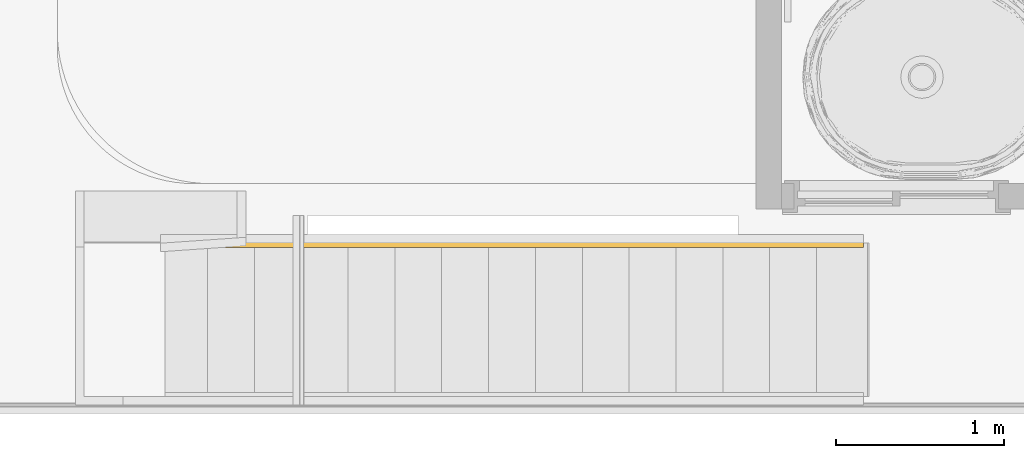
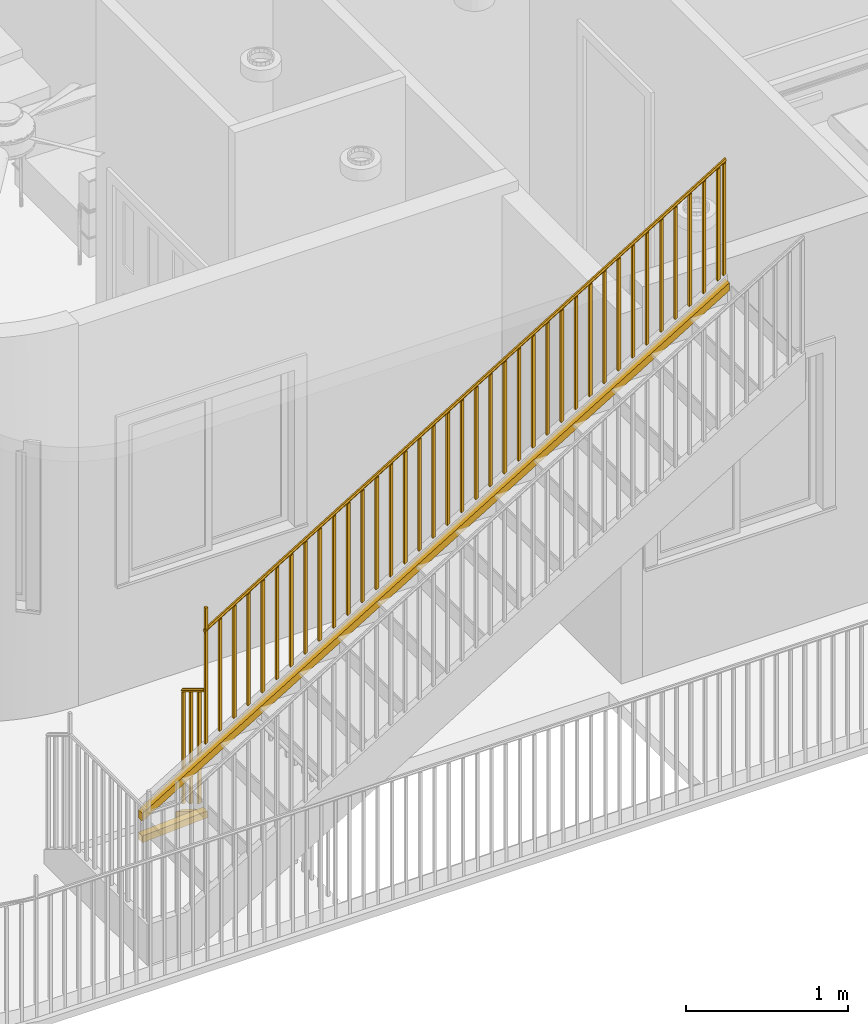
# One storey, part 11 of 28: 1 railing, 1 element without a shape of its own.
"""IFC2X3 building model written with IfcOpenShell, lengths in feet."""

from ifc_helpers import new_model, entity, si_unit, converted_unit, derived_unit, direction, frame, origin, place, context, subcontext, project, spatial, faceted_brep, element, aggregate, save


model = new_model("IFC2X3")

# Units and contexts
model_context = context("Model", 3, precision=0.0001, world=origin(), true_north=direction((6.12303176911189e-17, 1.0)))
body_context = subcontext(model_context, "Body", "Model", "MODEL_VIEW")
ifc_project = project(units=[converted_unit("LENGTHUNIT", "FOOT", entity("IfcRatioMeasure", 0.3048), si_unit("LENGTHUNIT", "METRE"), dimensions=[1, 0, 0, 0, 0, 0, 0]), converted_unit("AREAUNIT", "SQUARE FOOT", entity("IfcRatioMeasure", 0.09290304), si_unit("AREAUNIT", "SQUARE_METRE"), dimensions=[2, 0, 0, 0, 0, 0, 0]), converted_unit("VOLUMEUNIT", "CUBIC FOOT", entity("IfcRatioMeasure", 0.028316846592), si_unit("VOLUMEUNIT", "CUBIC_METRE"), dimensions=[3, 0, 0, 0, 0, 0, 0]), converted_unit("PLANEANGLEUNIT", "DEGREE", entity("IfcRatioMeasure", 0.0174532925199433), si_unit("PLANEANGLEUNIT", "RADIAN"), dimensions=[0, 0, 0, 0, 0, 0, 0]), si_unit("MASSUNIT", "GRAM", prefix="KILO"), derived_unit("MASSDENSITYUNIT", [(si_unit("MASSUNIT", "GRAM", prefix="KILO"), 1), (si_unit("LENGTHUNIT", "METRE"), -3)]), si_unit("TIMEUNIT", "SECOND"), si_unit("FREQUENCYUNIT", "HERTZ"), si_unit("THERMODYNAMICTEMPERATUREUNIT", "DEGREE_CELSIUS"), derived_unit("THERMALTRANSMITTANCEUNIT", [(si_unit("MASSUNIT", "GRAM", prefix="KILO"), 1), (si_unit("THERMODYNAMICTEMPERATUREUNIT", "KELVIN"), -1), (si_unit("TIMEUNIT", "SECOND"), -3)]), derived_unit("VOLUMETRICFLOWRATEUNIT", [(si_unit("LENGTHUNIT", "METRE"), 3), (si_unit("TIMEUNIT", "SECOND"), -1)]), si_unit("ELECTRICCURRENTUNIT", "AMPERE"), si_unit("ELECTRICVOLTAGEUNIT", "VOLT"), si_unit("POWERUNIT", "WATT"), si_unit("FORCEUNIT", "NEWTON"), si_unit("ILLUMINANCEUNIT", "LUX"), si_unit("LUMINOUSFLUXUNIT", "LUMEN"), si_unit("LUMINOUSINTENSITYUNIT", "CANDELA"), derived_unit("USERDEFINED", [(si_unit("MASSUNIT", "GRAM", prefix="KILO"), -1), (si_unit("LENGTHUNIT", "METRE"), -2), (si_unit("TIMEUNIT", "SECOND"), 3), (si_unit("LUMINOUSFLUXUNIT", "LUMEN"), 1)]), derived_unit("LINEARVELOCITYUNIT", [(si_unit("LENGTHUNIT", "METRE"), 1), (si_unit("TIMEUNIT", "SECOND"), -1)]), si_unit("PRESSUREUNIT", "PASCAL"), derived_unit("USERDEFINED", [(si_unit("LENGTHUNIT", "METRE"), -2), (si_unit("MASSUNIT", "GRAM", prefix="KILO"), 1), (si_unit("TIMEUNIT", "SECOND"), -2)])], contexts=[model_context])

# Site, building, storey
site_placement = place(None, origin())
site = spatial("IfcSite", under=ifc_project, at=site_placement, Name="表面", CompositionType="ELEMENT")
building_placement = place(site_placement, origin())
building = spatial("IfcBuilding", under=site, at=building_placement, CompositionType="ELEMENT")
storey_placement = place(building_placement, frame((0.0, 0.0, 10.0)))
storey = spatial("IfcBuildingStorey", under=building, at=storey_placement, Name="Level 2", CompositionType="ELEMENT", Elevation=9.99999999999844)

# Stair, railing
stair_placement = place(storey_placement, origin())
stair = element("IfcStair", 1, at=stair_placement, inside=storey, Name="楼梯:7\" max riser 11\" tread", ObjectType="楼梯:7\" max riser 11\" tread", ShapeType="NOTDEFINED")
railing_placement = place(stair_placement, frame((-31.7640797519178, -14.1511403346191, 0.360668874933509)))
railing = element("IfcRailing", 2, at=railing_placement, Name="栏杆扶手:Handrail - Rectangular", ObjectType="栏杆扶手:Handrail - Rectangular", PredefinedType="NOTDEFINED", context=body_context, shape_type="Brep", body=[
    faceted_brep([(13.5520833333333, 0.198117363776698, 12.4219382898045), (13.5520833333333, 0.198117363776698, 9.65973982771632), (13.5520833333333, 0.135617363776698, 9.65973982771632), (13.5520833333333, 0.135617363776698, 12.4219382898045), (13.6145833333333, 0.198117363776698, 12.4598170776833), (13.6145833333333, 0.198117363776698, 9.6976186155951), (13.6145833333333, 0.135617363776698, 12.4598170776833), (13.6145833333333, 0.135617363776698, 9.6976186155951)], [[[0, 1, 2, 3]], [[4, 5, 1, 0]], [[6, 7, 5, 4]], [[3, 2, 7, 6]], [[3, 6, 4, 0]], [[1, 5, 7, 2]]]),
    faceted_brep([(13.21875, 0.198117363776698, 12.2199180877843), (13.21875, 0.198117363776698, 9.45771962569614), (13.21875, 0.135617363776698, 9.45771962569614), (13.21875, 0.135617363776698, 12.2199180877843), (13.28125, 0.198117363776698, 12.2577968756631), (13.28125, 0.198117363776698, 9.49559841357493), (13.28125, 0.135617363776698, 12.2577968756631), (13.28125, 0.135617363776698, 9.49559841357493)], [[[0, 1, 2, 3]], [[4, 5, 1, 0]], [[6, 7, 5, 4]], [[3, 2, 7, 6]], [[3, 6, 4, 0]], [[1, 5, 7, 2]]]),
    faceted_brep([(12.8854166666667, 0.198117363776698, 12.0178978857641), (12.8854166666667, 0.198117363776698, 9.25569942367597), (12.8854166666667, 0.135617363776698, 9.25569942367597), (12.8854166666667, 0.135617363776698, 12.0178978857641), (12.9479166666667, 0.198117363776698, 12.0557766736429), (12.9479166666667, 0.198117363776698, 9.29357821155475), (12.9479166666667, 0.135617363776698, 12.0557766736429), (12.9479166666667, 0.135617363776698, 9.29357821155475)], [[[0, 1, 2, 3]], [[4, 5, 1, 0]], [[6, 7, 5, 4]], [[3, 2, 7, 6]], [[3, 6, 4, 0]], [[1, 5, 7, 2]]]),
    faceted_brep([(12.5520833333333, 0.198117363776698, 11.815877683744), (12.5520833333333, 0.198117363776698, 9.0536792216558), (12.5520833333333, 0.135617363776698, 9.0536792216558), (12.5520833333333, 0.135617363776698, 11.815877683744), (12.6145833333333, 0.198117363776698, 11.8537564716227), (12.6145833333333, 0.198117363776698, 9.09155800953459), (12.6145833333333, 0.135617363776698, 11.8537564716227), (12.6145833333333, 0.135617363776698, 9.09155800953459)], [[[0, 1, 2, 3]], [[4, 5, 1, 0]], [[6, 7, 5, 4]], [[3, 2, 7, 6]], [[3, 6, 4, 0]], [[1, 5, 7, 2]]]),
    faceted_brep([(12.21875, 0.198117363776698, 11.6138574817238), (12.21875, 0.198117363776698, 8.85165901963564), (12.21875, 0.135617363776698, 8.85165901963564), (12.21875, 0.135617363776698, 11.6138574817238), (12.28125, 0.198117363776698, 11.6517362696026), (12.28125, 0.198117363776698, 8.88953780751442), (12.28125, 0.135617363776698, 11.6517362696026), (12.28125, 0.135617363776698, 8.88953780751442)], [[[0, 1, 2, 3]], [[4, 5, 1, 0]], [[6, 7, 5, 4]], [[3, 2, 7, 6]], [[3, 6, 4, 0]], [[1, 5, 7, 2]]]),
    faceted_brep([(11.8854166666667, 0.198117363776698, 11.4118372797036), (11.8854166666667, 0.198117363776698, 8.64963881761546), (11.8854166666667, 0.135617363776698, 8.64963881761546), (11.8854166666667, 0.135617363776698, 11.4118372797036), (11.9479166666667, 0.198117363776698, 11.4497160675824), (11.9479166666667, 0.198117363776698, 8.68751760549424), (11.9479166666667, 0.135617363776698, 11.4497160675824), (11.9479166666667, 0.135617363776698, 8.68751760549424)], [[[0, 1, 2, 3]], [[4, 5, 1, 0]], [[6, 7, 5, 4]], [[3, 2, 7, 6]], [[3, 6, 4, 0]], [[1, 5, 7, 2]]]),
    faceted_brep([(11.5520833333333, 0.198117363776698, 11.2098170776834), (11.5520833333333, 0.198117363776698, 8.44761861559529), (11.5520833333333, 0.135617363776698, 8.44761861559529), (11.5520833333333, 0.135617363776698, 11.2098170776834), (11.6145833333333, 0.198117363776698, 11.2476958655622), (11.6145833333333, 0.198117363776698, 8.48549740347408), (11.6145833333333, 0.135617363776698, 11.2476958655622), (11.6145833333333, 0.135617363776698, 8.48549740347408)], [[[0, 1, 2, 3]], [[4, 5, 1, 0]], [[6, 7, 5, 4]], [[3, 2, 7, 6]], [[3, 6, 4, 0]], [[1, 5, 7, 2]]]),
    faceted_brep([(11.21875, 0.198117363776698, 11.0077968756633), (11.21875, 0.198117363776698, 8.24559841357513), (11.21875, 0.135617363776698, 8.24559841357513), (11.21875, 0.135617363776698, 11.0077968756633), (11.28125, 0.198117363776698, 11.0456756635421), (11.28125, 0.198117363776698, 8.28347720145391), (11.28125, 0.135617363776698, 11.0456756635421), (11.28125, 0.135617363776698, 8.28347720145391)], [[[0, 1, 2, 3]], [[4, 5, 1, 0]], [[6, 7, 5, 4]], [[3, 2, 7, 6]], [[3, 6, 4, 0]], [[1, 5, 7, 2]]]),
    faceted_brep([(10.8854166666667, 0.198117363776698, 10.8057766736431), (10.8854166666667, 0.198117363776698, 8.04357821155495), (10.8854166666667, 0.135617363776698, 8.04357821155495), (10.8854166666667, 0.135617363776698, 10.8057766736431), (10.9479166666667, 0.198117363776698, 10.8436554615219), (10.9479166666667, 0.198117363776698, 8.08145699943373), (10.9479166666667, 0.135617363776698, 10.8436554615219), (10.9479166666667, 0.135617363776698, 8.08145699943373)], [[[0, 1, 2, 3]], [[4, 5, 1, 0]], [[6, 7, 5, 4]], [[3, 2, 7, 6]], [[3, 6, 4, 0]], [[1, 5, 7, 2]]]),
    faceted_brep([(10.5520833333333, 0.198117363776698, 10.6037564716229), (10.5520833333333, 0.198117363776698, 7.84155800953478), (10.5520833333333, 0.135617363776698, 7.84155800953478), (10.5520833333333, 0.135617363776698, 10.6037564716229), (10.6145833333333, 0.198117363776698, 10.6416352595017), (10.6145833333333, 0.198117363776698, 7.87943679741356), (10.6145833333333, 0.135617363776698, 10.6416352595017), (10.6145833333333, 0.135617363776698, 7.87943679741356)], [[[0, 1, 2, 3]], [[4, 5, 1, 0]], [[6, 7, 5, 4]], [[3, 2, 7, 6]], [[3, 6, 4, 0]], [[1, 5, 7, 2]]]),
    faceted_brep([(10.21875, 0.198117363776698, 10.4017362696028), (10.21875, 0.198117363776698, 7.63953780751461), (10.21875, 0.135617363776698, 7.63953780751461), (10.21875, 0.135617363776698, 10.4017362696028), (10.28125, 0.198117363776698, 10.4396150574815), (10.28125, 0.198117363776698, 7.67741659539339), (10.28125, 0.135617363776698, 10.4396150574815), (10.28125, 0.135617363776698, 7.67741659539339)], [[[0, 1, 2, 3]], [[4, 5, 1, 0]], [[6, 7, 5, 4]], [[3, 2, 7, 6]], [[3, 6, 4, 0]], [[1, 5, 7, 2]]]),
    faceted_brep([(9.88541666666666, 0.198117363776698, 10.1997160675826), (9.88541666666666, 0.198117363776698, 7.43751760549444), (9.88541666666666, 0.135617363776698, 7.43751760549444), (9.88541666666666, 0.135617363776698, 10.1997160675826), (9.94791666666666, 0.198117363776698, 10.2375948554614), (9.94791666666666, 0.198117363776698, 7.47539639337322), (9.94791666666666, 0.135617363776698, 10.2375948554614), (9.94791666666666, 0.135617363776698, 7.47539639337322)], [[[0, 1, 2, 3]], [[4, 5, 1, 0]], [[6, 7, 5, 4]], [[3, 2, 7, 6]], [[3, 6, 4, 0]], [[1, 5, 7, 2]]]),
    faceted_brep([(9.55208333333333, 0.198117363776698, 9.99769586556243), (9.55208333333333, 0.198117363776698, 7.23549740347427), (9.55208333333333, 0.135617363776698, 7.23549740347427), (9.55208333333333, 0.135617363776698, 9.99769586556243), (9.61458333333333, 0.198117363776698, 10.0355746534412), (9.61458333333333, 0.198117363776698, 7.27337619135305), (9.61458333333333, 0.135617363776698, 10.0355746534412), (9.61458333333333, 0.135617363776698, 7.27337619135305)], [[[0, 1, 2, 3]], [[4, 5, 1, 0]], [[6, 7, 5, 4]], [[3, 2, 7, 6]], [[3, 6, 4, 0]], [[1, 5, 7, 2]]]),
    faceted_brep([(9.21875, 0.198117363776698, 9.79567566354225), (9.21875, 0.198117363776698, 7.0334772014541), (9.21875, 0.135617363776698, 7.0334772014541), (9.21875, 0.135617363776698, 9.79567566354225), (9.28125, 0.198117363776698, 9.83355445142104), (9.28125, 0.198117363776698, 7.07135598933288), (9.28125, 0.135617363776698, 9.83355445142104), (9.28125, 0.135617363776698, 7.07135598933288)], [[[0, 1, 2, 3]], [[4, 5, 1, 0]], [[6, 7, 5, 4]], [[3, 2, 7, 6]], [[3, 6, 4, 0]], [[1, 5, 7, 2]]]),
    faceted_brep([(8.88541666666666, 0.198117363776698, 9.59365546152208), (8.88541666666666, 0.198117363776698, 6.83145699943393), (8.88541666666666, 0.135617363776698, 6.83145699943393), (8.88541666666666, 0.135617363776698, 9.59365546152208), (8.94791666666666, 0.198117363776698, 9.63153424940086), (8.94791666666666, 0.198117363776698, 6.86933578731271), (8.94791666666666, 0.135617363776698, 9.63153424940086), (8.94791666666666, 0.135617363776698, 6.86933578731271)], [[[0, 1, 2, 3]], [[4, 5, 1, 0]], [[6, 7, 5, 4]], [[3, 2, 7, 6]], [[3, 6, 4, 0]], [[1, 5, 7, 2]]]),
    faceted_brep([(8.55208333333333, 0.198117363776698, 9.39163525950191), (8.55208333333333, 0.198117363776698, 6.62943679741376), (8.55208333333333, 0.135617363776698, 6.62943679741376), (8.55208333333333, 0.135617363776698, 9.39163525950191), (8.61458333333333, 0.198117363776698, 9.42951404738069), (8.61458333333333, 0.198117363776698, 6.66731558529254), (8.61458333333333, 0.135617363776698, 9.42951404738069), (8.61458333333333, 0.135617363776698, 6.66731558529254)], [[[0, 1, 2, 3]], [[4, 5, 1, 0]], [[6, 7, 5, 4]], [[3, 2, 7, 6]], [[3, 6, 4, 0]], [[1, 5, 7, 2]]]),
    faceted_brep([(8.21875, 0.198117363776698, 9.18961505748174), (8.21875, 0.198117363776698, 6.42741659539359), (8.21875, 0.135617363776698, 6.42741659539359), (8.21875, 0.135617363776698, 9.18961505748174), (8.28125, 0.198117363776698, 9.22749384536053), (8.28125, 0.198117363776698, 6.46529538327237), (8.28125, 0.135617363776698, 9.22749384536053), (8.28125, 0.135617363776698, 6.46529538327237)], [[[0, 1, 2, 3]], [[4, 5, 1, 0]], [[6, 7, 5, 4]], [[3, 2, 7, 6]], [[3, 6, 4, 0]], [[1, 5, 7, 2]]]),
    faceted_brep([(7.88541666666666, 0.198117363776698, 8.98759485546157), (7.88541666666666, 0.198117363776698, 6.22539639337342), (7.88541666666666, 0.135617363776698, 6.22539639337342), (7.88541666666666, 0.135617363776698, 8.98759485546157), (7.94791666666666, 0.198117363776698, 9.02547364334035), (7.94791666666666, 0.198117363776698, 6.2632751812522), (7.94791666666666, 0.135617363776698, 9.02547364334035), (7.94791666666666, 0.135617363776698, 6.2632751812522)], [[[0, 1, 2, 3]], [[4, 5, 1, 0]], [[6, 7, 5, 4]], [[3, 2, 7, 6]], [[3, 6, 4, 0]], [[1, 5, 7, 2]]]),
    faceted_brep([(7.55208333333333, 0.198117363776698, 8.7855746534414), (7.55208333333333, 0.198117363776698, 6.02337619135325), (7.55208333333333, 0.135617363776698, 6.02337619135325), (7.55208333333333, 0.135617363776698, 8.7855746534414), (7.61458333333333, 0.198117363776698, 8.82345344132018), (7.61458333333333, 0.198117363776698, 6.06125497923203), (7.61458333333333, 0.135617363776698, 8.82345344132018), (7.61458333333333, 0.135617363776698, 6.06125497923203)], [[[0, 1, 2, 3]], [[4, 5, 1, 0]], [[6, 7, 5, 4]], [[3, 2, 7, 6]], [[3, 6, 4, 0]], [[1, 5, 7, 2]]]),
    faceted_brep([(7.21875, 0.198117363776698, 8.58355445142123), (7.21875, 0.198117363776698, 5.82135598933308), (7.21875, 0.135617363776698, 5.82135598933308), (7.21875, 0.135617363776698, 8.58355445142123), (7.28125, 0.198117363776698, 8.62143323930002), (7.28125, 0.198117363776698, 5.85923477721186), (7.28125, 0.135617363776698, 8.62143323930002), (7.28125, 0.135617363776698, 5.85923477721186)], [[[0, 1, 2, 3]], [[4, 5, 1, 0]], [[6, 7, 5, 4]], [[3, 2, 7, 6]], [[3, 6, 4, 0]], [[1, 5, 7, 2]]]),
    faceted_brep([(6.88541666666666, 0.198117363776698, 8.38153424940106), (6.88541666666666, 0.198117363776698, 5.61933578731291), (6.88541666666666, 0.135617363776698, 5.61933578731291), (6.88541666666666, 0.135617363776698, 8.38153424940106), (6.94791666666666, 0.198117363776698, 8.41941303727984), (6.94791666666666, 0.198117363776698, 5.65721457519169), (6.94791666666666, 0.135617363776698, 8.41941303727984), (6.94791666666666, 0.135617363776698, 5.65721457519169)], [[[0, 1, 2, 3]], [[4, 5, 1, 0]], [[6, 7, 5, 4]], [[3, 2, 7, 6]], [[3, 6, 4, 0]], [[1, 5, 7, 2]]]),
    faceted_brep([(6.55208333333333, 0.198117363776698, 8.17951404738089), (6.55208333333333, 0.198117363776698, 5.41731558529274), (6.55208333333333, 0.135617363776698, 5.41731558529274), (6.55208333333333, 0.135617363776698, 8.17951404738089), (6.61458333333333, 0.198117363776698, 8.21739283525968), (6.61458333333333, 0.198117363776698, 5.45519437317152), (6.61458333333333, 0.135617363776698, 8.21739283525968), (6.61458333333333, 0.135617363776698, 5.45519437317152)], [[[0, 1, 2, 3]], [[4, 5, 1, 0]], [[6, 7, 5, 4]], [[3, 2, 7, 6]], [[3, 6, 4, 0]], [[1, 5, 7, 2]]]),
    faceted_brep([(6.21875, 0.198117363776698, 7.97749384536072), (6.21875, 0.198117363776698, 5.21529538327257), (6.21875, 0.135617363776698, 5.21529538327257), (6.21875, 0.135617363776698, 7.97749384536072), (6.28125, 0.198117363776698, 8.0153726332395), (6.28125, 0.198117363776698, 5.25317417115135), (6.28125, 0.135617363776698, 8.0153726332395), (6.28125, 0.135617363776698, 5.25317417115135)], [[[0, 1, 2, 3]], [[4, 5, 1, 0]], [[6, 7, 5, 4]], [[3, 2, 7, 6]], [[3, 6, 4, 0]], [[1, 5, 7, 2]]]),
    faceted_brep([(5.88541666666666, 0.198117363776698, 7.77547364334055), (5.88541666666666, 0.198117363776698, 5.01327518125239), (5.88541666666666, 0.135617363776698, 5.01327518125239), (5.88541666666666, 0.135617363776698, 7.77547364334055), (5.94791666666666, 0.198117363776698, 7.81335243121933), (5.94791666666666, 0.198117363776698, 5.05115396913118), (5.94791666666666, 0.135617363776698, 7.81335243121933), (5.94791666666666, 0.135617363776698, 5.05115396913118)], [[[0, 1, 2, 3]], [[4, 5, 1, 0]], [[6, 7, 5, 4]], [[3, 2, 7, 6]], [[3, 6, 4, 0]], [[1, 5, 7, 2]]]),
    faceted_brep([(5.55208333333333, 0.198117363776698, 7.57345344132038), (5.55208333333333, 0.198117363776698, 4.81125497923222), (5.55208333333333, 0.135617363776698, 4.81125497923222), (5.55208333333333, 0.135617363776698, 7.57345344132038), (5.61458333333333, 0.198117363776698, 7.61133222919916), (5.61458333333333, 0.198117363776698, 4.84913376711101), (5.61458333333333, 0.135617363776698, 7.61133222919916), (5.61458333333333, 0.135617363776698, 4.84913376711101)], [[[0, 1, 2, 3]], [[4, 5, 1, 0]], [[6, 7, 5, 4]], [[3, 2, 7, 6]], [[3, 6, 4, 0]], [[1, 5, 7, 2]]]),
    faceted_brep([(5.21875, 0.198117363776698, 7.37143323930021), (5.21875, 0.198117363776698, 4.60923477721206), (5.21875, 0.135617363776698, 4.60923477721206), (5.21875, 0.135617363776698, 7.37143323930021), (5.28125, 0.198117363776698, 7.40931202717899), (5.28125, 0.198117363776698, 4.64711356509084), (5.28125, 0.135617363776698, 7.40931202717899), (5.28125, 0.135617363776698, 4.64711356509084)], [[[0, 1, 2, 3]], [[4, 5, 1, 0]], [[6, 7, 5, 4]], [[3, 2, 7, 6]], [[3, 6, 4, 0]], [[1, 5, 7, 2]]]),
    faceted_brep([(4.88541666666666, 0.198117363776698, 7.16941303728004), (4.88541666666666, 0.198117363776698, 4.40721457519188), (4.88541666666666, 0.135617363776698, 4.40721457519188), (4.88541666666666, 0.135617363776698, 7.16941303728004), (4.94791666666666, 0.198117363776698, 7.20729182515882), (4.94791666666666, 0.198117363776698, 4.44509336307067), (4.94791666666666, 0.135617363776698, 7.20729182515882), (4.94791666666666, 0.135617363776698, 4.44509336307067)], [[[0, 1, 2, 3]], [[4, 5, 1, 0]], [[6, 7, 5, 4]], [[3, 2, 7, 6]], [[3, 6, 4, 0]], [[1, 5, 7, 2]]]),
    faceted_brep([(4.55208333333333, 0.198117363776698, 6.96739283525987), (4.55208333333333, 0.198117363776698, 4.20519437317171), (4.55208333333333, 0.135617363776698, 4.20519437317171), (4.55208333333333, 0.135617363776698, 6.96739283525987), (4.61458333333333, 0.198117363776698, 7.00527162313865), (4.61458333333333, 0.198117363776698, 4.2430731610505), (4.61458333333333, 0.135617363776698, 7.00527162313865), (4.61458333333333, 0.135617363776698, 4.2430731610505)], [[[0, 1, 2, 3]], [[4, 5, 1, 0]], [[6, 7, 5, 4]], [[3, 2, 7, 6]], [[3, 6, 4, 0]], [[1, 5, 7, 2]]]),
    faceted_brep([(4.21875, 0.198117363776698, 6.7653726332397), (4.21875, 0.198117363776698, 4.00317417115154), (4.21875, 0.135617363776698, 4.00317417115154), (4.21875, 0.135617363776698, 6.7653726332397), (4.28125, 0.198117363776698, 6.80325142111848), (4.28125, 0.198117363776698, 4.04105295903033), (4.28125, 0.135617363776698, 6.80325142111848), (4.28125, 0.135617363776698, 4.04105295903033)], [[[0, 1, 2, 3]], [[4, 5, 1, 0]], [[6, 7, 5, 4]], [[3, 2, 7, 6]], [[3, 6, 4, 0]], [[1, 5, 7, 2]]]),
    faceted_brep([(3.88541666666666, 0.198117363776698, 6.56335243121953), (3.88541666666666, 0.198117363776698, 3.80115396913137), (3.88541666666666, 0.135617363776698, 3.80115396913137), (3.88541666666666, 0.135617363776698, 6.56335243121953), (3.94791666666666, 0.198117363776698, 6.60123121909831), (3.94791666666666, 0.198117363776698, 3.83903275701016), (3.94791666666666, 0.135617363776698, 6.60123121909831), (3.94791666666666, 0.135617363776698, 3.83903275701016)], [[[0, 1, 2, 3]], [[4, 5, 1, 0]], [[6, 7, 5, 4]], [[3, 2, 7, 6]], [[3, 6, 4, 0]], [[1, 5, 7, 2]]]),
    faceted_brep([(3.55208333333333, 0.198117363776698, 6.36133222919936), (3.55208333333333, 0.198117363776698, 3.5991337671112), (3.55208333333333, 0.135617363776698, 3.5991337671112), (3.55208333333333, 0.135617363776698, 6.36133222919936), (3.61458333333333, 0.198117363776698, 6.39921101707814), (3.61458333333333, 0.198117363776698, 3.63701255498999), (3.61458333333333, 0.135617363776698, 6.39921101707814), (3.61458333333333, 0.135617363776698, 3.63701255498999)], [[[0, 1, 2, 3]], [[4, 5, 1, 0]], [[6, 7, 5, 4]], [[3, 2, 7, 6]], [[3, 6, 4, 0]], [[1, 5, 7, 2]]]),
    faceted_brep([(3.21875, 0.198117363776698, 6.15931202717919), (3.21875, 0.198117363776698, 3.39711356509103), (3.21875, 0.135617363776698, 3.39711356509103), (3.21875, 0.135617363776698, 6.15931202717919), (3.28125, 0.198117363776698, 6.19719081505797), (3.28125, 0.198117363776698, 3.43499235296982), (3.28125, 0.135617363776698, 6.19719081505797), (3.28125, 0.135617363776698, 3.43499235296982)], [[[0, 1, 2, 3]], [[4, 5, 1, 0]], [[6, 7, 5, 4]], [[3, 2, 7, 6]], [[3, 6, 4, 0]], [[1, 5, 7, 2]]]),
    faceted_brep([(2.88541666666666, 0.198117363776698, 5.95729182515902), (2.88541666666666, 0.198117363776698, 3.19509336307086), (2.88541666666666, 0.135617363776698, 3.19509336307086), (2.88541666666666, 0.135617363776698, 5.95729182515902), (2.94791666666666, 0.198117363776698, 5.9951706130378), (2.94791666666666, 0.198117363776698, 3.23297215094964), (2.94791666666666, 0.135617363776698, 5.9951706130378), (2.94791666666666, 0.135617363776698, 3.23297215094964)], [[[0, 1, 2, 3]], [[4, 5, 1, 0]], [[6, 7, 5, 4]], [[3, 2, 7, 6]], [[3, 6, 4, 0]], [[1, 5, 7, 2]]]),
    faceted_brep([(2.55208333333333, 0.198117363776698, 5.75527162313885), (2.55208333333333, 0.198117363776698, 2.99307316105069), (2.55208333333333, 0.135617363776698, 2.99307316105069), (2.55208333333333, 0.135617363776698, 5.75527162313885), (2.61458333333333, 0.198117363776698, 5.79315041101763), (2.61458333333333, 0.198117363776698, 3.03095194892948), (2.61458333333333, 0.135617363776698, 5.79315041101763), (2.61458333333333, 0.135617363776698, 3.03095194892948)], [[[0, 1, 2, 3]], [[4, 5, 1, 0]], [[6, 7, 5, 4]], [[3, 2, 7, 6]], [[3, 6, 4, 0]], [[1, 5, 7, 2]]]),
    faceted_brep([(2.21875, 0.198117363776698, 5.55325142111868), (2.21875, 0.198117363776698, 2.79105295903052), (2.21875, 0.135617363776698, 2.79105295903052), (2.21875, 0.135617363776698, 5.55325142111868), (2.28125, 0.198117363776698, 5.59113020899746), (2.28125, 0.198117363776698, 2.82893174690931), (2.28125, 0.135617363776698, 5.59113020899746), (2.28125, 0.135617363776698, 2.82893174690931)], [[[0, 1, 2, 3]], [[4, 5, 1, 0]], [[6, 7, 5, 4]], [[3, 2, 7, 6]], [[3, 6, 4, 0]], [[1, 5, 7, 2]]]),
    faceted_brep([(1.88541666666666, 0.198117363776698, 5.35123121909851), (1.88541666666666, 0.198117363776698, 2.58903275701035), (1.88541666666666, 0.135617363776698, 2.58903275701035), (1.88541666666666, 0.135617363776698, 5.35123121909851), (1.94791666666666, 0.198117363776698, 5.38911000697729), (1.94791666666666, 0.198117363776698, 2.62691154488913), (1.94791666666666, 0.135617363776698, 5.38911000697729), (1.94791666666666, 0.135617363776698, 2.62691154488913)], [[[0, 1, 2, 3]], [[4, 5, 1, 0]], [[6, 7, 5, 4]], [[3, 2, 7, 6]], [[3, 6, 4, 0]], [[1, 5, 7, 2]]]),
    faceted_brep([(1.61458333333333, 0.46895069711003, 3.48254435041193), (1.61458333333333, 0.46895069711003, 0.720345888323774), (1.55208333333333, 0.46895069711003, 0.720345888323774), (1.55208333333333, 0.46895069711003, 3.48254435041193), (1.61458333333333, 0.40645069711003, 3.52042313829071), (1.61458333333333, 0.40645069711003, 0.758224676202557), (1.55208333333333, 0.40645069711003, 3.52042313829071), (1.55208333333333, 0.40645069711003, 0.758224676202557)], [[[0, 1, 2, 3]], [[4, 5, 1, 0]], [[6, 7, 5, 4]], [[3, 2, 7, 6]], [[3, 6, 4, 0]], [[1, 5, 7, 2]]]),
    faceted_brep([(1.61458333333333, 0.802284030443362, 3.28052414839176), (1.61458333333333, 0.802284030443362, 0.518325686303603), (1.55208333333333, 0.802284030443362, 0.518325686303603), (1.55208333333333, 0.802284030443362, 3.28052414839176), (1.61458333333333, 0.739784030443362, 3.31840293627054), (1.61458333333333, 0.739784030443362, 0.556204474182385), (1.55208333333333, 0.739784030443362, 3.31840293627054), (1.55208333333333, 0.739784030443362, 0.556204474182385)], [[[0, 1, 2, 3]], [[4, 5, 1, 0]], [[6, 7, 5, 4]], [[3, 2, 7, 6]], [[3, 6, 4, 0]], [[1, 5, 7, 2]]]),
    faceted_brep([(1.55208333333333, 0.198117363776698, 5.7655937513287), (1.55208333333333, 0.198117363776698, 2.38701255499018), (1.55208333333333, 0.135617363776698, 2.38701255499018), (1.55208333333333, 0.135617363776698, 5.7655937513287), (1.61458333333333, 0.198117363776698, 5.7655937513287), (1.61458333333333, 0.198117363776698, 2.42489134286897), (1.61458333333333, 0.135617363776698, 5.7655937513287), (1.61458333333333, 0.135617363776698, 2.42489134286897)], [[[0, 1, 2, 3]], [[4, 5, 1, 0]], [[6, 7, 5, 4]], [[3, 2, 7, 6]], [[3, 6, 4, 0]], [[1, 5, 7, 2]]]),
    faceted_brep([(13.6875, 0.198117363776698, 12.5040089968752), (13.6875, 0.198117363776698, 9.74181053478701), (13.6875, 0.135617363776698, 9.74181053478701), (13.6875, 0.135617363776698, 12.5040089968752), (13.75, 0.198117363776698, 12.5418877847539), (13.75, 0.198117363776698, 9.77968932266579), (13.75, 0.135617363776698, 12.5418877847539), (13.75, 0.135617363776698, 9.77968932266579)], [[[0, 1, 2, 3]], [[4, 5, 1, 0]], [[6, 7, 5, 4]], [[3, 2, 7, 6]], [[3, 6, 4, 0]], [[1, 5, 7, 2]]]),
    faceted_brep([(1.61458333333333, 1.1043673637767, 3.09744334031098), (1.61458333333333, 1.1043673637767, 0.335244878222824), (1.55208333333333, 1.1043673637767, 0.335244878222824), (1.55208333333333, 1.1043673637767, 3.09744334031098), (1.61458333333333, 1.0418673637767, 3.13532212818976), (1.61458333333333, 1.0418673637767, 0.373123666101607), (1.55208333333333, 1.0418673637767, 3.13532212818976), (1.55208333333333, 1.0418673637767, 0.373123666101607)], [[[0, 1, 2, 3]], [[4, 5, 1, 0]], [[6, 7, 5, 4]], [[3, 2, 7, 6]], [[3, 6, 4, 0]], [[1, 5, 7, 2]]]),
    faceted_brep([(1.41666666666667, 1.1043673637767, 0.194886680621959), (1.58333333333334, 1.1043673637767, 0.194886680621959), (1.58333333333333, 1.1043673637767, 0.0), (1.41666666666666, 1.1043673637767, 0.0), (1.41666666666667, 0.265447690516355, 0.703322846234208), (1.41666666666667, 0.265447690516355, 0.508436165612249), (1.58333333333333, 0.277021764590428, 0.501421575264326), (1.58333333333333, 0.277021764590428, 0.696308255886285)], [[[0, 1, 2, 3]], [[4, 5, 6, 7]], [[1, 0, 4, 7]], [[2, 1, 7, 6]], [[3, 2, 6, 5]], [[0, 3, 5, 4]]]),
    faceted_brep([(1.58333333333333, 0.277021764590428, 0.750442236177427), (1.58333333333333, 0.109953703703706, 0.750442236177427), (1.58333333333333, 0.109953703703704, 0.583775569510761), (1.58333333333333, 0.277021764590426, 0.583775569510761), (0.0, 0.167068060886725, 0.750442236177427), (0.0, 0.167068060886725, 0.583775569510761), (0.0, 0.0, 0.583775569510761), (0.0, 0.0, 0.750442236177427)], [[[0, 1, 2, 3]], [[4, 5, 6, 7]], [[1, 0, 4, 7]], [[2, 1, 7, 6]], [[3, 2, 6, 5]], [[0, 3, 5, 4]]]),
    faceted_brep([(0.0, 0.000200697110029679, 1.3059977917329), (0.0, 0.166867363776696, 1.3059977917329), (0.0, 0.166867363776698, 1.11111111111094), (0.0, 0.000200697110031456, 1.11111111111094), (13.75, 0.000200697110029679, 9.63933112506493), (13.75, 0.000200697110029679, 9.44444444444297), (13.75, 0.166867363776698, 9.44444444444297), (13.75, 0.166867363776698, 9.63933112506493)], [[[0, 1, 2, 3]], [[4, 5, 6, 7]], [[1, 0, 4, 7]], [[2, 1, 7, 6]], [[3, 2, 6, 5]], [[0, 3, 5, 4]]]),
    faceted_brep([(1.625, 1.1043673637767, 3.14616501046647), (1.60416666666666, 1.1043673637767, 3.10397080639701), (1.5625, 1.1043673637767, 3.10397080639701), (1.54166666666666, 1.1043673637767, 3.14616501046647), (1.5625, 1.1043673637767, 3.18835921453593), (1.60416666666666, 1.1043673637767, 3.18835921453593), (1.60416666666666, 0.208534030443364, 3.73128850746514), (1.5625, 0.208534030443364, 3.73128850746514), (1.54166666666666, 0.208534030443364, 3.68909430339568), (1.5625, 0.208534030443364, 3.64690009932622), (1.60416666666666, 0.208534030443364, 3.64690009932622), (1.625, 0.208534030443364, 3.68909430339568)], [[[0, 1, 2, 3, 4, 5]], [[6, 7, 8, 9, 10, 11]], [[8, 7, 4, 3]], [[7, 6, 5, 4]], [[6, 11, 0, 5]], [[11, 10, 1, 0]], [[10, 9, 2, 1]], [[9, 8, 3, 2]]]),
    faceted_brep([(1.54166666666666, 0.187700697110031, 5.23381375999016), (1.54166666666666, 0.208534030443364, 5.1916195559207), (1.54166666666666, 0.187700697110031, 5.14942535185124), (1.54166666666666, 0.146034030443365, 5.14942535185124), (1.54166666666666, 0.125200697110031, 5.1916195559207), (1.54166666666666, 0.146034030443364, 5.23381375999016), (13.75, 0.146034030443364, 12.6328036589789), (13.75, 0.125200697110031, 12.5906094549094), (13.75, 0.146034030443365, 12.54841525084), (13.75, 0.187700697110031, 12.54841525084), (13.75, 0.208534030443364, 12.5906094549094), (13.75, 0.187700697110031, 12.6328036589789)], [[[0, 1, 2, 3, 4, 5]], [[6, 7, 8, 9, 10, 11]], [[7, 6, 5, 4]], [[6, 11, 0, 5]], [[11, 10, 1, 0]], [[10, 9, 2, 1]], [[9, 8, 3, 2]], [[8, 7, 4, 3]]]),
])
aggregate(stair, [railing])

save(model, "model.ifc")
